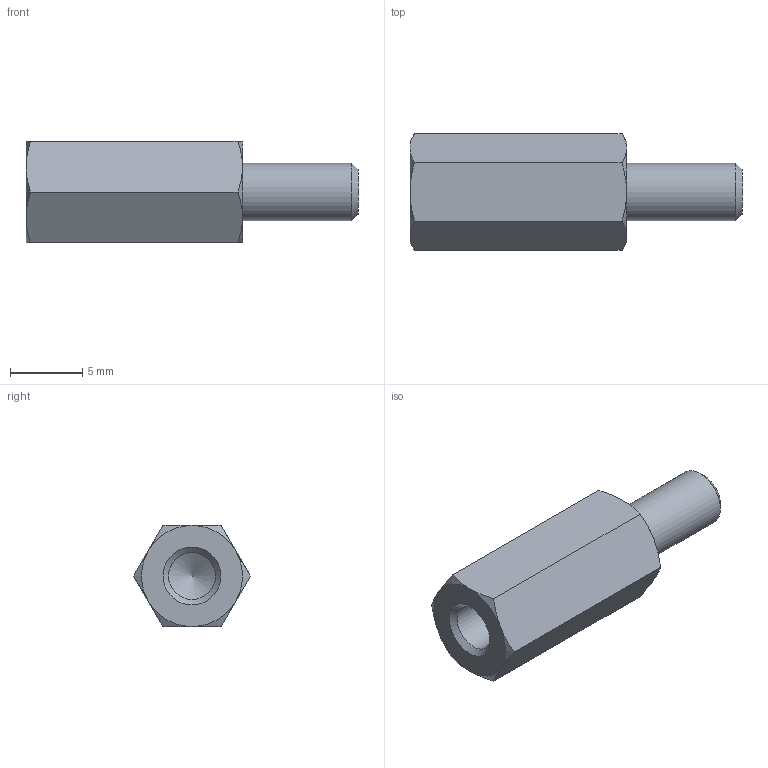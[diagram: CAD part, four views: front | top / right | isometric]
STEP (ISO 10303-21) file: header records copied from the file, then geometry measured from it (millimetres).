
FILE_DESCRIPTION( ( 'STEP AP203' ), '1' );
FILE_NAME( 'C:/Temp/Ganter_Step_05_03_2020/data/3_2/gn6220/gn6220_st/Spacer GN 6220-ST-M4-15-B.stp', '2020-03-13T05:42:39', ( 'License CC BY-ND 4.0' ), ( 'CADENAS' ), ' ', 'PARTsolutions', ' ' );
FILE_SCHEMA( ( 'CONFIG_CONTROL_DESIGN' ) );
Length unit declared in the file: millimetre
Products named in the file (1): _Spacer GN 6220-ST-M4-15-B
Bounding box: 23 x 8.08 x 7 mm (x, y, z)
Volume: 617.9 mm3; surface area: 681.6 mm2
Topology: 1 solids, 1 shells, 26 faces, 55 edges, 32 vertices
Faces by surface type: cone 15, plane 9, cylinder 2
Full cylindrical faces by diameter (mm): 3.242 x1, 4 x1
Entity records: 746 total; most frequent: CARTESIAN_POINT 210, DIRECTION 96, ORIENTED_EDGE 96, EDGE_CURVE 48, AXIS2_PLACEMENT_3D 45, EDGE_LOOP 32, VERTEX_POINT 31, FACE_OUTER_BOUND 28
